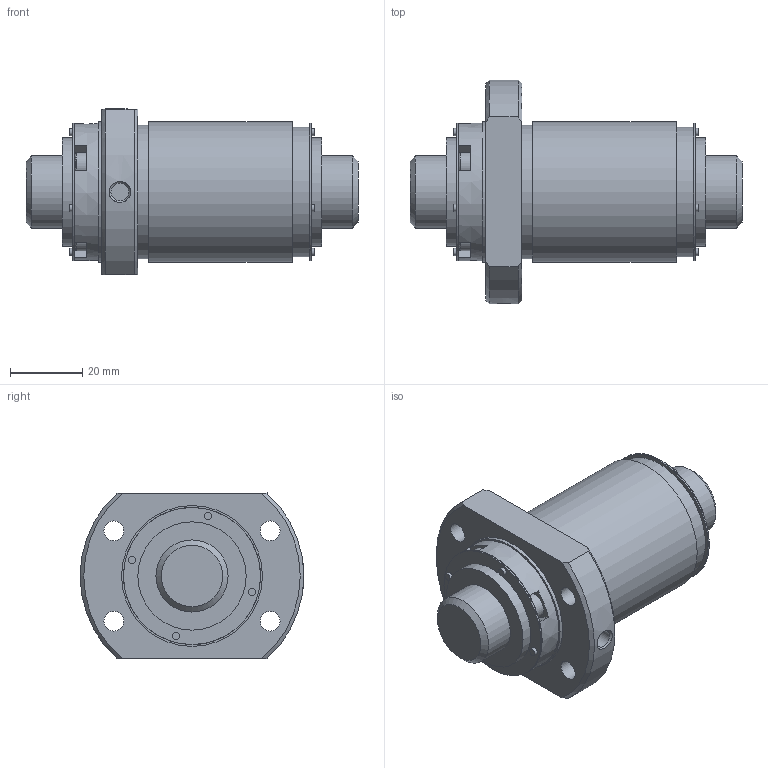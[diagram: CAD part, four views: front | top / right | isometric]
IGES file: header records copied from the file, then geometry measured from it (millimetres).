
Start section: Data from Parasolid IGES Translator 26.0.171, Copyright(c) 2006 Siemens PLM Software. All Rights Reserved.
Global section: file name: BLK2020-2.8ZZG1+92LC3_0_1300.igs; native system: By Siemens PLM Incorporated; preprocessor: XPlus GENERIC/IGES 26.0.171; author: Noname; organization: Noname; date: 20250116.070438; units: millimetre
Bounding box: 92 x 62 x 46 mm (x, y, z)
Surface area: 26736.8 mm2 (no closed solid volume)
Topology: 0 solids, 0 shells, 156 faces, 692 edges, 618 vertices
Faces by surface type: extrusion 95, revolution 61
